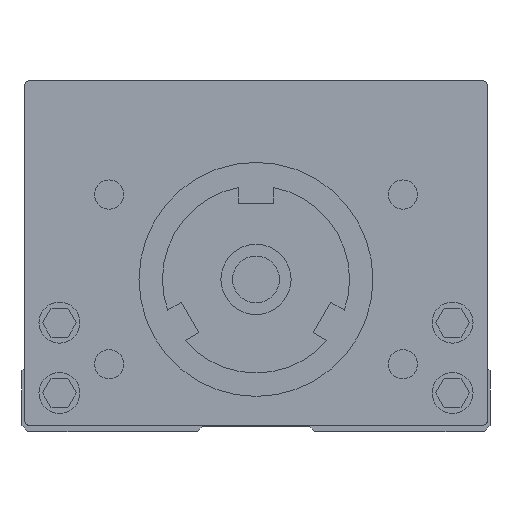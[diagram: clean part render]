
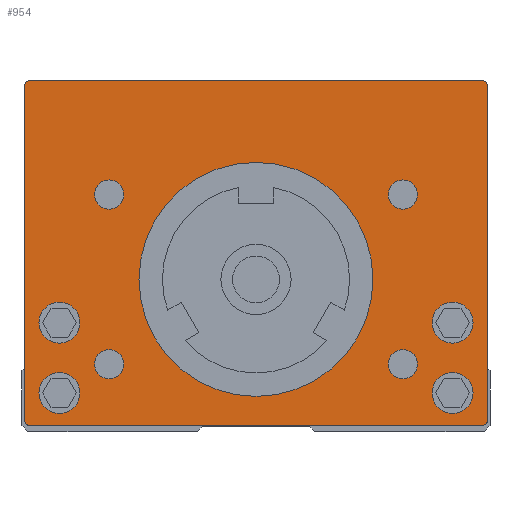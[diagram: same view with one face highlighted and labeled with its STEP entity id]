
A CAD part, front view. The second image highlights one B-rep face of the part: STEP entity #954.
In plain terms, the highlighted planar face has unit normal (0, -1, 0).
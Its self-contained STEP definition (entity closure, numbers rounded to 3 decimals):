
#642=FACE_BOUND('',#2230,.T.);
#643=FACE_BOUND('',#2231,.T.);
#644=FACE_BOUND('',#2232,.T.);
#645=FACE_BOUND('',#2233,.T.);
#646=FACE_BOUND('',#2234,.T.);
#647=FACE_BOUND('',#2235,.T.);
#648=FACE_BOUND('',#2236,.T.);
#649=FACE_BOUND('',#2237,.T.);
#650=FACE_BOUND('',#2238,.T.);
#651=FACE_BOUND('',#2239,.T.);
#954=ADVANCED_FACE('',(#642,#643,#644,#645,#646,#647,#648,#649,#650,#651),
#1431,.F.);
#1431=PLANE('',#9423);
#2230=EDGE_LOOP('',(#3451,#3452,#3453,#3454,#3455,#3456,#3457,#3458));
#2231=EDGE_LOOP('',(#3459));
#2232=EDGE_LOOP('',(#3460));
#2233=EDGE_LOOP('',(#3461));
#2234=EDGE_LOOP('',(#3462));
#2235=EDGE_LOOP('',(#3463));
#2236=EDGE_LOOP('',(#3464));
#2237=EDGE_LOOP('',(#3465));
#2238=EDGE_LOOP('',(#3466));
#2239=EDGE_LOOP('',(#3467));
#2828=CIRCLE('',#9349,1.25);
#2829=CIRCLE('',#9351,1.25);
#2830=CIRCLE('',#9353,1.25);
#2831=CIRCLE('',#9355,1.25);
#2837=CIRCLE('',#9365,1.75);
#2839=CIRCLE('',#9368,1.75);
#2841=CIRCLE('',#9371,1.75);
#2843=CIRCLE('',#9374,1.75);
#2845=CIRCLE('',#9377,10.);
#2861=CIRCLE('',#9406,0.5);
#2867=CIRCLE('',#9418,0.5);
#2868=CIRCLE('',#9420,0.5);
#2869=CIRCLE('',#9422,0.5);
#3451=ORIENTED_EDGE('',*,*,#6608,.F.);
#3452=ORIENTED_EDGE('',*,*,#6604,.F.);
#3453=ORIENTED_EDGE('',*,*,#6575,.F.);
#3454=ORIENTED_EDGE('',*,*,#6590,.F.);
#3455=ORIENTED_EDGE('',*,*,#6609,.F.);
#3456=ORIENTED_EDGE('',*,*,#6607,.F.);
#3457=ORIENTED_EDGE('',*,*,#6610,.F.);
#3458=ORIENTED_EDGE('',*,*,#6611,.F.);
#3459=ORIENTED_EDGE('',*,*,#6545,.F.);
#3460=ORIENTED_EDGE('',*,*,#6543,.F.);
#3461=ORIENTED_EDGE('',*,*,#6547,.F.);
#3462=ORIENTED_EDGE('',*,*,#6549,.F.);
#3463=ORIENTED_EDGE('',*,*,#6535,.F.);
#3464=ORIENTED_EDGE('',*,*,#6534,.F.);
#3465=ORIENTED_EDGE('',*,*,#6533,.F.);
#3466=ORIENTED_EDGE('',*,*,#6532,.F.);
#3467=ORIENTED_EDGE('',*,*,#6551,.F.);
#5661=VERTEX_POINT('',#13056);
#5662=VERTEX_POINT('',#13059);
#5663=VERTEX_POINT('',#13062);
#5664=VERTEX_POINT('',#13065);
#5670=VERTEX_POINT('',#13083);
#5672=VERTEX_POINT('',#13088);
#5674=VERTEX_POINT('',#13093);
#5676=VERTEX_POINT('',#13098);
#5678=VERTEX_POINT('',#13103);
#5696=VERTEX_POINT('',#13153);
#5697=VERTEX_POINT('',#13154);
#5704=VERTEX_POINT('',#13180);
#5710=VERTEX_POINT('',#13216);
#5711=VERTEX_POINT('',#13220);
#5712=VERTEX_POINT('',#13222);
#5713=VERTEX_POINT('',#13226);
#5714=VERTEX_POINT('',#13229);
#6532=EDGE_CURVE('',#5661,#5661,#2828,.T.);
#6533=EDGE_CURVE('',#5662,#5662,#2829,.T.);
#6534=EDGE_CURVE('',#5663,#5663,#2830,.T.);
#6535=EDGE_CURVE('',#5664,#5664,#2831,.T.);
#6543=EDGE_CURVE('',#5670,#5670,#2837,.T.);
#6545=EDGE_CURVE('',#5672,#5672,#2839,.T.);
#6547=EDGE_CURVE('',#5674,#5674,#2841,.T.);
#6549=EDGE_CURVE('',#5676,#5676,#2843,.T.);
#6551=EDGE_CURVE('',#5678,#5678,#2845,.T.);
#6575=EDGE_CURVE('',#5696,#5697,#7720,.T.);
#6590=EDGE_CURVE('',#5704,#5696,#2861,.T.);
#6604=EDGE_CURVE('',#5697,#5710,#2867,.T.);
#6607=EDGE_CURVE('',#5712,#5711,#2868,.T.);
#6608=EDGE_CURVE('',#5710,#5713,#7737,.T.);
#6609=EDGE_CURVE('',#5711,#5704,#7738,.T.);
#6610=EDGE_CURVE('',#5714,#5712,#7739,.T.);
#6611=EDGE_CURVE('',#5713,#5714,#2869,.T.);
#7720=LINE('',#13152,#8553);
#7737=LINE('',#13225,#8570);
#7738=LINE('',#13227,#8571);
#7739=LINE('',#13228,#8572);
#8553=VECTOR('',#10518,1.);
#8570=VECTOR('',#10589,1.);
#8571=VECTOR('',#10590,1.);
#8572=VECTOR('',#10591,1.);
#9349=AXIS2_PLACEMENT_3D('',#13055,#10410,#10411);
#9351=AXIS2_PLACEMENT_3D('',#13058,#10414,#10415);
#9353=AXIS2_PLACEMENT_3D('',#13061,#10418,#10419);
#9355=AXIS2_PLACEMENT_3D('',#13064,#10422,#10423);
#9365=AXIS2_PLACEMENT_3D('',#13082,#10444,#10445);
#9368=AXIS2_PLACEMENT_3D('',#13087,#10450,#10451);
#9371=AXIS2_PLACEMENT_3D('',#13092,#10456,#10457);
#9374=AXIS2_PLACEMENT_3D('',#13097,#10462,#10463);
#9377=AXIS2_PLACEMENT_3D('',#13102,#10468,#10469);
#9406=AXIS2_PLACEMENT_3D('',#13181,#10549,#10550);
#9418=AXIS2_PLACEMENT_3D('',#13217,#10579,#10580);
#9420=AXIS2_PLACEMENT_3D('',#13223,#10585,#10586);
#9422=AXIS2_PLACEMENT_3D('',#13230,#10592,#10593);
#9423=AXIS2_PLACEMENT_3D('',#13231,#10594,#10595);
#10410=DIRECTION('',(0.,-1.,0.));
#10411=DIRECTION('',(1.,0.,0.));
#10414=DIRECTION('',(0.,-1.,0.));
#10415=DIRECTION('',(1.,0.,0.));
#10418=DIRECTION('',(0.,-1.,0.));
#10419=DIRECTION('',(1.,0.,0.));
#10422=DIRECTION('',(0.,-1.,0.));
#10423=DIRECTION('',(1.,0.,0.));
#10444=DIRECTION('',(0.,-1.,0.));
#10445=DIRECTION('',(1.,0.,0.));
#10450=DIRECTION('',(0.,-1.,0.));
#10451=DIRECTION('',(1.,0.,0.));
#10456=DIRECTION('',(0.,-1.,0.));
#10457=DIRECTION('',(1.,0.,0.));
#10462=DIRECTION('',(0.,-1.,0.));
#10463=DIRECTION('',(1.,0.,0.));
#10468=DIRECTION('',(0.,-1.,0.));
#10469=DIRECTION('',(1.,0.,0.));
#10518=DIRECTION('',(1.,0.,0.));
#10549=DIRECTION('',(0.,1.,0.));
#10550=DIRECTION('',(-1.,0.,0.));
#10579=DIRECTION('',(0.,1.,0.));
#10580=DIRECTION('',(0.,0.,1.));
#10585=DIRECTION('',(0.,1.,0.));
#10586=DIRECTION('',(0.,0.,-1.));
#10589=DIRECTION('',(0.,0.,-1.));
#10590=DIRECTION('',(0.,0.,1.));
#10591=DIRECTION('',(-1.,0.,0.));
#10592=DIRECTION('',(0.,1.,0.));
#10593=DIRECTION('',(1.,0.,0.));
#10594=DIRECTION('',(0.,1.,0.));
#10595=DIRECTION('',(1.,0.,0.));
#13055=CARTESIAN_POINT('',(12.557,50.,5.25));
#13056=CARTESIAN_POINT('',(13.807,50.,5.25));
#13058=CARTESIAN_POINT('',(-12.557,50.,5.25));
#13059=CARTESIAN_POINT('',(-11.307,50.,5.25));
#13061=CARTESIAN_POINT('',(-12.557,50.,19.75));
#13062=CARTESIAN_POINT('',(-11.307,50.,19.75));
#13064=CARTESIAN_POINT('',(12.557,50.,19.75));
#13065=CARTESIAN_POINT('',(13.807,50.,19.75));
#13082=CARTESIAN_POINT('',(16.8,50.,2.8));
#13083=CARTESIAN_POINT('',(18.55,50.,2.8));
#13087=CARTESIAN_POINT('',(16.8,50.,8.8));
#13088=CARTESIAN_POINT('',(18.55,50.,8.8));
#13092=CARTESIAN_POINT('',(-16.8,50.,2.8));
#13093=CARTESIAN_POINT('',(-15.05,50.,2.8));
#13097=CARTESIAN_POINT('',(-16.8,50.,8.8));
#13098=CARTESIAN_POINT('',(-15.05,50.,8.8));
#13102=CARTESIAN_POINT('',(0.,50.,12.5));
#13103=CARTESIAN_POINT('',(10.,50.,12.5));
#13152=CARTESIAN_POINT('',(-19.3,50.,29.5));
#13153=CARTESIAN_POINT('',(-19.3,50.,29.5));
#13154=CARTESIAN_POINT('',(19.3,50.,29.5));
#13180=CARTESIAN_POINT('',(-19.8,50.,29.));
#13181=CARTESIAN_POINT('',(-19.3,50.,29.));
#13216=CARTESIAN_POINT('',(19.8,50.,29.));
#13217=CARTESIAN_POINT('',(19.3,50.,29.));
#13220=CARTESIAN_POINT('',(-19.8,50.,0.5));
#13222=CARTESIAN_POINT('',(-19.3,50.,0.));
#13223=CARTESIAN_POINT('',(-19.3,50.,0.5));
#13225=CARTESIAN_POINT('',(19.8,50.,29.));
#13226=CARTESIAN_POINT('',(19.8,50.,0.5));
#13227=CARTESIAN_POINT('',(-19.8,50.,0.5));
#13228=CARTESIAN_POINT('',(19.3,50.,0.));
#13229=CARTESIAN_POINT('',(19.3,50.,0.));
#13230=CARTESIAN_POINT('',(19.3,50.,0.5));
#13231=CARTESIAN_POINT('',(19.8,50.,29.5));
